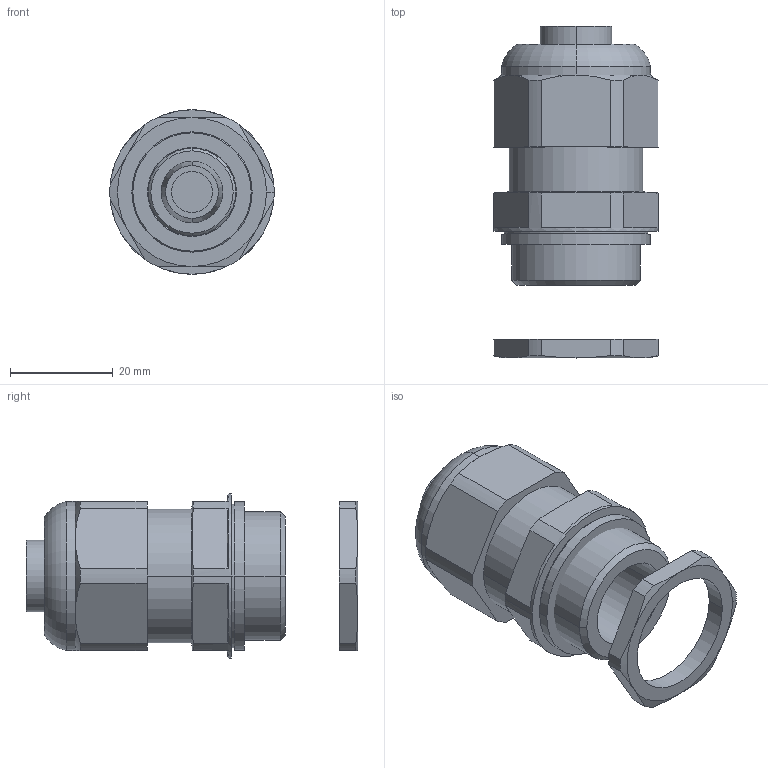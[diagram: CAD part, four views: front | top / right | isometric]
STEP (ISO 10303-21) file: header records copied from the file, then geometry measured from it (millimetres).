
FILE_DESCRIPTION (( 'STEP AP203' ), '1' );
FILE_NAME ('8161-_-M25-17_m_Mutter_m_Stopfen.STEP', '2015-04-02T07:18:54', ( '' ), ( '' ), 'SwSTEP 2.0', 'SolidWorks 2015', '' );
FILE_SCHEMA (( 'CONFIG_CONTROL_DESIGN' ));
Length unit declared in the file: millimetre
Products named in the file (1): 8161-_-M25-17_m_Mutter_m_Stopfen
Bounding box: 32 x 64.57 x 32 mm (x, y, z)
Volume: 21968.9 mm3; surface area: 18405.1 mm2
Topology: 7 solids, 7 shells, 479 faces, 1262 edges, 783 vertices
Faces by surface type: plane 153, cone 134, cylinder 121, torus 53, bspline 18
Entity records: 14965 total; most frequent: CARTESIAN_POINT 3121, DIRECTION 2527, ORIENTED_EDGE 2488, EDGE_CURVE 1244, AXIS2_PLACEMENT_3D 965, VERTEX_POINT 783, VECTOR 597, LINE 597
